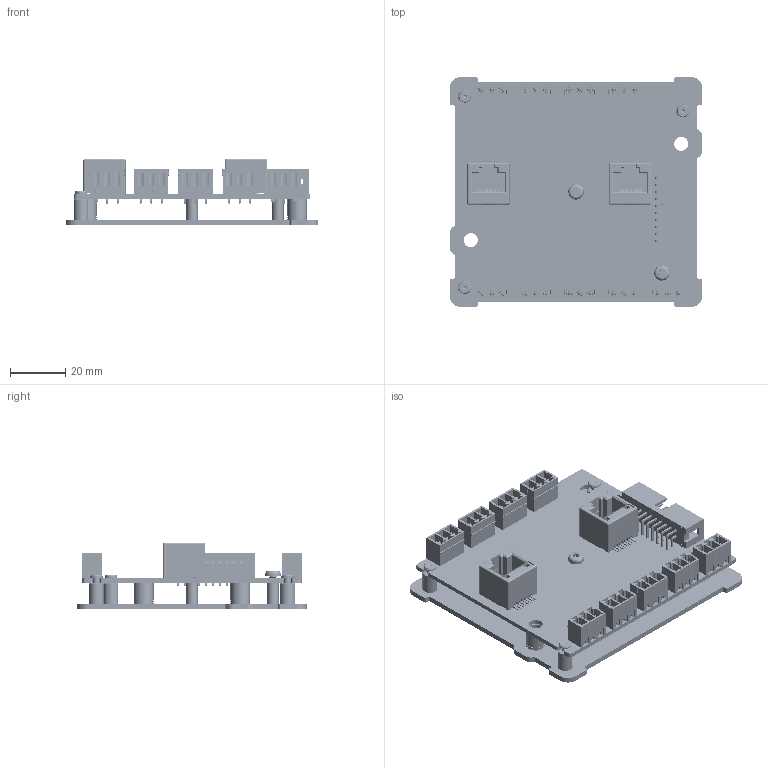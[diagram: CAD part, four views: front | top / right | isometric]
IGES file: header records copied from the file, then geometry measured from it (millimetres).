
Start section: SolidWorks IGES file using analytic representation for surfaces
Global section: file name: C:\Users\micheal_berezny\Desktop\SolidWorks\CCIO-8.IGS; native system: SolidWorks 2013; preprocessor: SolidWorks 2013; author: mike_berezny; date: 200506.131637; units: inch
Bounding box: 91.57 x 83.19 x 24 mm (x, y, z)
Surface area: 48952.9 mm2 (no closed solid volume)
Topology: 0 solids, 0 shells, 4833 faces, 38078 edges, 38072 vertices
Faces by surface type: bspline 3948, revolution 885
